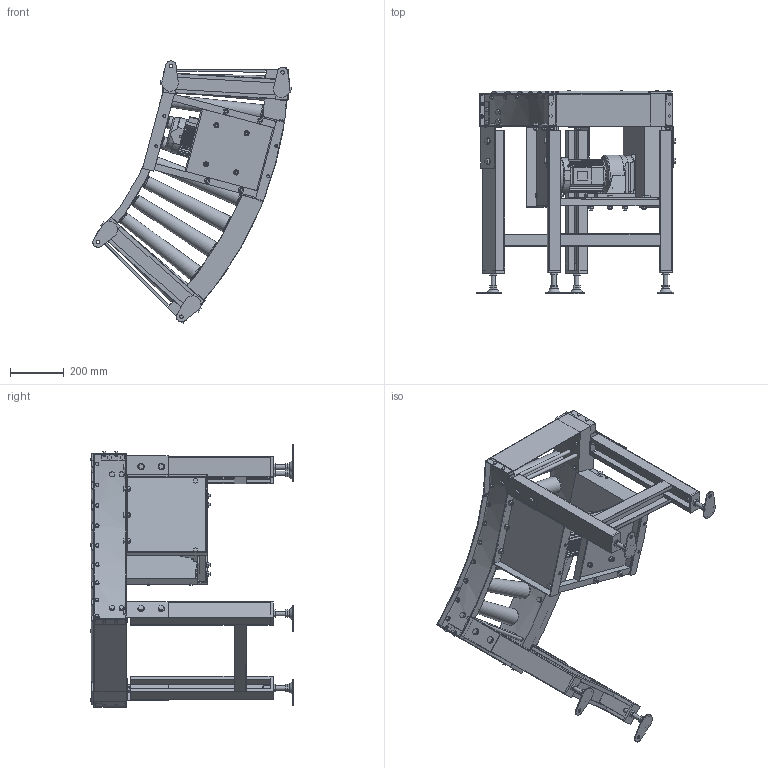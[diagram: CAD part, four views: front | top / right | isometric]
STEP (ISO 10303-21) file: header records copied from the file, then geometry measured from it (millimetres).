
FILE_DESCRIPTION( (''), '2;1');
FILE_NAME ('WEB-MCC3-45-400-100-45°-R.stp','2025-07-18T07:50:37',(''),(''),'spGate 20.6.2 (****-****-****-****)','','');
FILE_SCHEMA (('AUTOMOTIVE_DESIGN'));
Length unit declared in the file: millimetre
Products named in the file (22): WEB-MCC3-45-400-100-45_-R; TEMP_X_T-prt0; TEMP_X_T-prt1; TEMP_X_T-prt2; TEMP_X_T-prt3; TEMP_X_T-prt4; TEMP_X_T-prt5; TEMP_X_T-prt6; TEMP_X_T-prt7; TEMP_X_T-prt8; TEMP_X_T-prt9; TEMP_X_T-prt10; TEMP_X_T-prt11; TEMP_X_T-prt12; TEMP_X_T-prt13; TEMP_X_T-prt14; TEMP_X_T-prt15; TEMP_X_T-prt16; TEMP_X_T-prt17; TEMP_X_T-prt18; TEMP_X_T-prt19; TEMP_X_T-prt20
Assembly tree (21 placements, depth 2):
  WEB-MCC3-45-400-100-45_-R
    TEMP_X_T-prt0
    TEMP_X_T-prt1
    TEMP_X_T-prt2
    TEMP_X_T-prt3
    TEMP_X_T-prt4
    TEMP_X_T-prt5
    TEMP_X_T-prt6
    TEMP_X_T-prt7
    TEMP_X_T-prt8
    TEMP_X_T-prt9
    TEMP_X_T-prt10
    TEMP_X_T-prt11
    TEMP_X_T-prt12
    TEMP_X_T-prt13
    TEMP_X_T-prt14
    TEMP_X_T-prt15
    TEMP_X_T-prt16
    TEMP_X_T-prt17
    TEMP_X_T-prt18
    TEMP_X_T-prt19
    TEMP_X_T-prt20
Bounding box: 735.71 x 752.2 x 972.78 mm (x, y, z)
Volume: 27956269.5 mm3; surface area: 4023526.6 mm2
Topology: 21 solids, 22 shells, 2640 faces, 6815 edges, 4519 vertices
Faces by surface type: plane 2045, cylinder 520, bspline 75
Full cylindrical faces by diameter (mm): 5 x4, 6 x28, 8 x1, 9.2 x4, 10 x46, 10.5 x4, 11 x4, 12 x11, 12.2 x12, 13 x12, 13.8 x12, 15 x1, 15.4 x19, 16 x16, 17.3 x9, 18 x14, 18.4 x23, 21 x4, 21.5 x1, 24 x8, 28 x10, 31 x1, 45 x9, 63 x1, 113.2 x1, 153 x1
Entity records: 142172 total; most frequent: CARTESIAN_POINT 21673, ORIENTED_EDGE 13628, DIRECTION 13298, COLOUR_RGB 9475, PRESENTATION_STYLE_ASSIGNMENT 9475, STYLED_ITEM 9475, EDGE_CURVE 6814, DRAUGHTING_PRE_DEFINED_CURVE_FONT 6814
